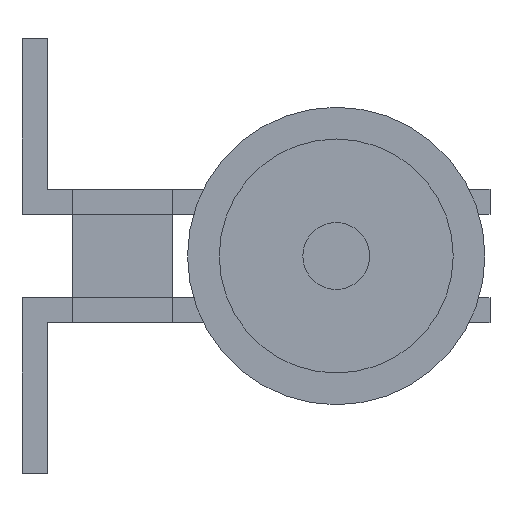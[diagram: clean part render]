
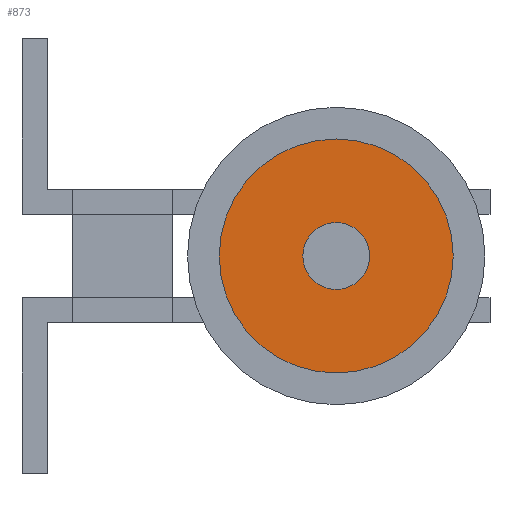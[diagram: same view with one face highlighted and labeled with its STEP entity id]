
A CAD part, front view. The second image highlights one B-rep face of the part: STEP entity #873.
In plain terms, the highlighted planar face has unit normal (0, -1, 0).
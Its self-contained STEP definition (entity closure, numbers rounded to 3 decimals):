
#11 = VERTEX_POINT ( 'NONE', #3894 ) ;
#23 = EDGE_CURVE ( 'NONE', #11, #55, #3854, .T. ) ;
#55 = VERTEX_POINT ( 'NONE', #4043 ) ;
#85 = VERTEX_POINT ( 'NONE', #4282 ) ;
#86 = VERTEX_POINT ( 'NONE', #4280 ) ;
#91 = EDGE_CURVE ( 'NONE', #85, #86, #4271, .T. ) ;
#674 = EDGE_CURVE ( 'NONE', #86, #85, #6550, .T. ) ;
#873 = ADVANCED_FACE ( 'NONE', ( #7203, #7202 ), #7201, .F. ) ;
#874 = EDGE_LOOP ( 'NONE', ( #875, #877 ) ) ;
#875 = ORIENTED_EDGE ( 'NONE', *, *, #876, .F. ) ;
#876 = EDGE_CURVE ( 'NONE', #55, #11, #7186, .T. ) ;
#877 = ORIENTED_EDGE ( 'NONE', *, *, #23, .F. ) ;
#878 = EDGE_LOOP ( 'NONE', ( #879, #918 ) ) ;
#879 = ORIENTED_EDGE ( 'NONE', *, *, #91, .T. ) ;
#918 = ORIENTED_EDGE ( 'NONE', *, *, #674, .T. ) ;
#3853 = AXIS2_PLACEMENT_3D ( 'NONE', #3979, #3977, #3974 ) ;
#3854 = CIRCLE ( 'NONE', #3853, 7. ) ;
#3894 = CARTESIAN_POINT ( 'NONE',  ( 0., 0., 7. ) ) ;
#3974 = DIRECTION ( 'NONE',  ( 0., 0., 1. ) ) ;
#3977 = DIRECTION ( 'NONE',  ( 0., 1., 0. ) ) ;
#3979 = CARTESIAN_POINT ( 'NONE',  ( 0., 0., 0. ) ) ;
#4043 = CARTESIAN_POINT ( 'NONE',  ( 0., 0., -7. ) ) ;
#4253 = DIRECTION ( 'NONE',  ( 0., 0., 1. ) ) ;
#4254 = DIRECTION ( 'NONE',  ( 0., 1., 0. ) ) ;
#4256 = CARTESIAN_POINT ( 'NONE',  ( 0., 0., 0. ) ) ;
#4258 = AXIS2_PLACEMENT_3D ( 'NONE', #4256, #4254, #4253 ) ;
#4271 = CIRCLE ( 'NONE', #4258, 2. ) ;
#4280 = CARTESIAN_POINT ( 'NONE',  ( 0., 0., 2. ) ) ;
#4282 = CARTESIAN_POINT ( 'NONE',  ( 0., 0., -2. ) ) ;
#6546 = DIRECTION ( 'NONE',  ( 0., 0., 1. ) ) ;
#6547 = DIRECTION ( 'NONE',  ( 0., 1., 0. ) ) ;
#6548 = CARTESIAN_POINT ( 'NONE',  ( 0., 0., 0. ) ) ;
#6549 = AXIS2_PLACEMENT_3D ( 'NONE', #6548, #6547, #6546 ) ;
#6550 = CIRCLE ( 'NONE', #6549, 2. ) ;
#7182 = DIRECTION ( 'NONE',  ( 0., 0., 1. ) ) ;
#7183 = DIRECTION ( 'NONE',  ( 0., 1., 0. ) ) ;
#7184 = CARTESIAN_POINT ( 'NONE',  ( 0., 0., 0. ) ) ;
#7185 = AXIS2_PLACEMENT_3D ( 'NONE', #7184, #7183, #7182 ) ;
#7186 = CIRCLE ( 'NONE', #7185, 7. ) ;
#7187 = DIRECTION ( 'NONE',  ( 0., 0., 1. ) ) ;
#7188 = DIRECTION ( 'NONE',  ( 0., 1., 0. ) ) ;
#7189 = CARTESIAN_POINT ( 'NONE',  ( 0., 0., 0. ) ) ;
#7190 = AXIS2_PLACEMENT_3D ( 'NONE', #7189, #7188, #7187 ) ;
#7201 = PLANE ( 'NONE',  #7190 ) ;
#7202 = FACE_BOUND ( 'NONE', #878, .T. ) ;
#7203 = FACE_OUTER_BOUND ( 'NONE', #874, .T. ) ;
